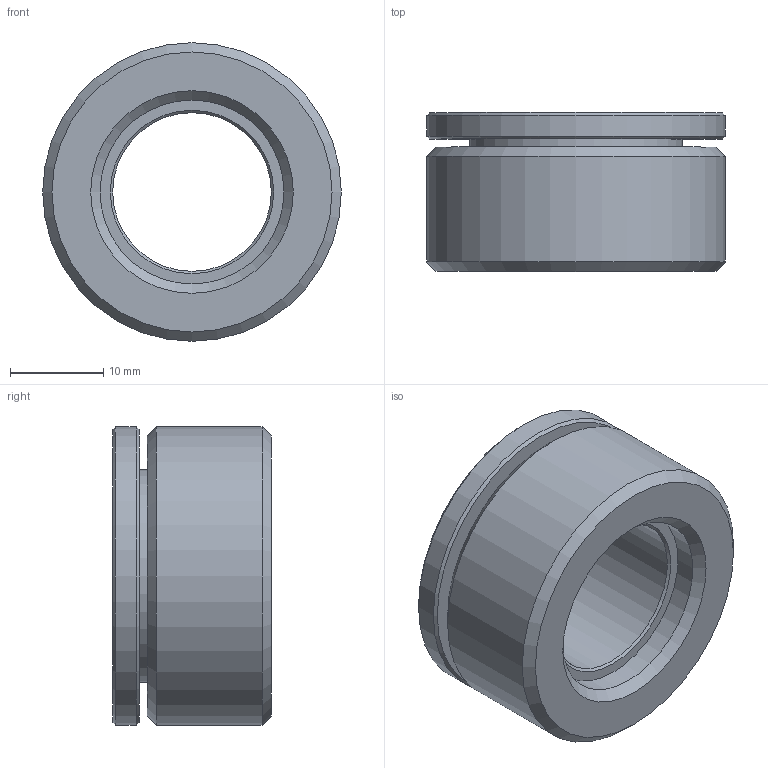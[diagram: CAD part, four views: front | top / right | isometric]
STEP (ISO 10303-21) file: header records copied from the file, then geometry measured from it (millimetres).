
FILE_DESCRIPTION( ( 'STEP AP203' ), '1' );
FILE_NAME( 'C:/Temp/Ganter_Step_05_03_2020/data/3_2/gn6319_1/gn_6319_1_ni/Stainless Steel-Spherical washer GN 6319.1-32-NI.stp', '2020-03-13T05:32:17', ( 'License CC BY-ND 4.0' ), ( 'CADENAS' ), ' ', 'PARTsolutions', ' ' );
FILE_SCHEMA( ( 'CONFIG_CONTROL_DESIGN' ) );
Length unit declared in the file: millimetre
Products named in the file (1): _Stainless Steel-Spherical washer GN 6319.1-32-NI
Bounding box: 32 x 17 x 32 mm (x, y, z)
Volume: 7787.4 mm3; surface area: 5683.2 mm2
Topology: 1 solids, 1 shells, 23 faces, 39 edges, 23 vertices
Faces by surface type: cone 9, cylinder 7, plane 7
Full cylindrical faces by diameter (mm): 17 x1, 19.7 x1, 22.775 x1, 25.85 x1, 30.2 x1, 32 x2
Entity records: 512 total; most frequent: DIRECTION 94, CARTESIAN_POINT 70, AXIS2_PLACEMENT_3D 47, EDGE_LOOP 46, ORIENTED_EDGE 46, FACE_OUTER_BOUND 30, ADVANCED_FACE 23, EDGE_CURVE 23
